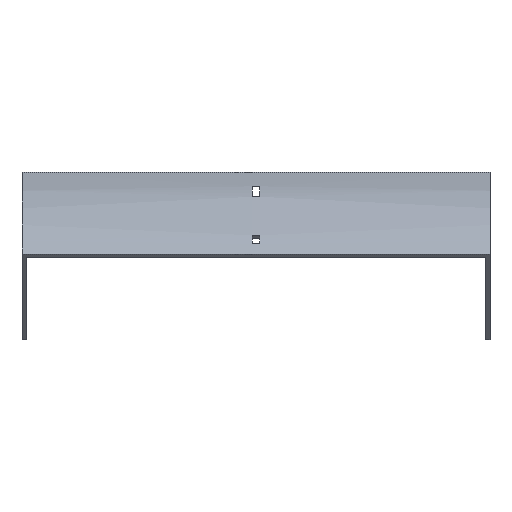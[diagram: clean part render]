
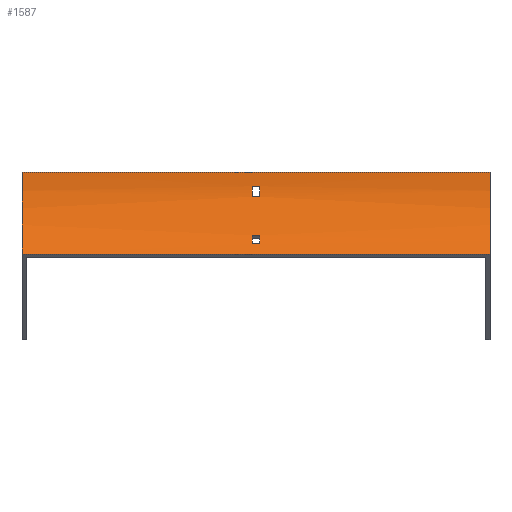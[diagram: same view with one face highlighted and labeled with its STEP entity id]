
A CAD part, front view. The second image highlights one B-rep face of the part: STEP entity #1587.
In plain terms, the highlighted cylindrical face has radius 100 mm (diameter 200 mm), a partial arc.
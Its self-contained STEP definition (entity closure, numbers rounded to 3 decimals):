
#10 = ORIENTED_EDGE ( 'NONE', *, *, #433, .T. ) ;
#19 = VERTEX_POINT ( 'NONE', #723 ) ;
#32 = DIRECTION ( 'NONE',  ( 0., 0., -1. ) ) ;
#38 = VERTEX_POINT ( 'NONE', #1108 ) ;
#39 = CIRCLE ( 'NONE', #531, 100. ) ;
#41 = AXIS2_PLACEMENT_3D ( 'NONE', #936, #1194, #1540 ) ;
#44 = CYLINDRICAL_SURFACE ( 'NONE', #925, 100. ) ;
#51 = DIRECTION ( 'NONE',  ( 1., 0., 0. ) ) ;
#79 = CARTESIAN_POINT ( 'NONE',  ( -202., -29.289, -70.711 ) ) ;
#85 = VERTEX_POINT ( 'NONE', #79 ) ;
#92 = DIRECTION ( 'NONE',  ( -1., 0., 0. ) ) ;
#96 = DIRECTION ( 'NONE',  ( -1., 0., 0. ) ) ;
#98 = ORIENTED_EDGE ( 'NONE', *, *, #997, .F. ) ;
#104 = DIRECTION ( 'NONE',  ( -1., 0., 0. ) ) ;
#107 = ORIENTED_EDGE ( 'NONE', *, *, #157, .F. ) ;
#112 = CARTESIAN_POINT ( 'NONE',  ( 202., -16.017, -54.285 ) ) ;
#139 = ORIENTED_EDGE ( 'NONE', *, *, #1120, .F. ) ;
#156 = DIRECTION ( 'NONE',  ( 1., 0., 0. ) ) ;
#157 = EDGE_CURVE ( 'NONE', #718, #85, #1644, .T. ) ;
#163 = ORIENTED_EDGE ( 'NONE', *, *, #820, .T. ) ;
#168 = EDGE_CURVE ( 'NONE', #802, #633, #765, .T. ) ;
#177 = VERTEX_POINT ( 'NONE', #619 ) ;
#189 = ORIENTED_EDGE ( 'NONE', *, *, #1183, .T. ) ;
#194 = FACE_OUTER_BOUND ( 'NONE', #1345, .T. ) ;
#210 = CARTESIAN_POINT ( 'NONE',  ( 3.25, -0.723, -12. ) ) ;
#240 = VECTOR ( 'NONE', #378, 1000. ) ;
#263 = CARTESIAN_POINT ( 'NONE',  ( -3.25, -0.723, -12. ) ) ;
#340 = CARTESIAN_POINT ( 'NONE',  ( -202., 0., 0. ) ) ;
#372 = CIRCLE ( 'NONE', #1323, 100. ) ;
#375 = VECTOR ( 'NONE', #104, 1000. ) ;
#378 = DIRECTION ( 'NONE',  ( -1., 0., 0. ) ) ;
#383 = VERTEX_POINT ( 'NONE', #1042 ) ;
#433 = EDGE_CURVE ( 'NONE', #478, #19, #789, .T. ) ;
#442 = CARTESIAN_POINT ( 'NONE',  ( 202., -100., 0. ) ) ;
#451 = DIRECTION ( 'NONE',  ( 0., 0., 1. ) ) ;
#459 = VECTOR ( 'NONE', #156, 1000. ) ;
#478 = VERTEX_POINT ( 'NONE', #210 ) ;
#483 = CARTESIAN_POINT ( 'NONE',  ( -3.25, -100., 0. ) ) ;
#484 = AXIS2_PLACEMENT_3D ( 'NONE', #1615, #992, #1113 ) ;
#502 = LINE ( 'NONE', #1542, #240 ) ;
#531 = AXIS2_PLACEMENT_3D ( 'NONE', #840, #600, #451 ) ;
#581 = CARTESIAN_POINT ( 'NONE',  ( 3.25, -21.315, -61.714 ) ) ;
#600 = DIRECTION ( 'NONE',  ( -1., 0., 0. ) ) ;
#619 = CARTESIAN_POINT ( 'NONE',  ( -3.25, -2.23, -21. ) ) ;
#633 = VERTEX_POINT ( 'NONE', #1267 ) ;
#645 = DIRECTION ( 'NONE',  ( 0., 0., 1. ) ) ;
#679 = CIRCLE ( 'NONE', #1624, 100. ) ;
#704 = DIRECTION ( 'NONE',  ( -1., 0., 0. ) ) ;
#718 = VERTEX_POINT ( 'NONE', #1516 ) ;
#723 = CARTESIAN_POINT ( 'NONE',  ( 3.25, -2.23, -21. ) ) ;
#765 = LINE ( 'NONE', #112, #1403 ) ;
#778 = EDGE_LOOP ( 'NONE', ( #1083, #814, #163, #10 ) ) ;
#780 = LINE ( 'NONE', #1162, #1453 ) ;
#788 = ORIENTED_EDGE ( 'NONE', *, *, #809, .T. ) ;
#789 = CIRCLE ( 'NONE', #41, 100. ) ;
#802 = VERTEX_POINT ( 'NONE', #1671 ) ;
#809 = EDGE_CURVE ( 'NONE', #38, #1202, #502, .T. ) ;
#814 = ORIENTED_EDGE ( 'NONE', *, *, #1692, .T. ) ;
#820 = EDGE_CURVE ( 'NONE', #871, #478, #1304, .T. ) ;
#824 = CARTESIAN_POINT ( 'NONE',  ( 202., -0.723, -12. ) ) ;
#840 = CARTESIAN_POINT ( 'NONE',  ( -202., -100., 0. ) ) ;
#871 = VERTEX_POINT ( 'NONE', #263 ) ;
#889 = VECTOR ( 'NONE', #1642, 1000. ) ;
#916 = EDGE_CURVE ( 'NONE', #633, #383, #1326, .T. ) ;
#925 = AXIS2_PLACEMENT_3D ( 'NONE', #442, #1123, #1632 ) ;
#936 = CARTESIAN_POINT ( 'NONE',  ( 3.25, -100., 0. ) ) ;
#970 = EDGE_LOOP ( 'NONE', ( #1150, #1213, #98, #1167 ) ) ;
#981 = CARTESIAN_POINT ( 'NONE',  ( 3.25, -100., 0. ) ) ;
#992 = DIRECTION ( 'NONE',  ( -1., 0., 0. ) ) ;
#997 = EDGE_CURVE ( 'NONE', #1535, #802, #679, .T. ) ;
#1005 = CARTESIAN_POINT ( 'NONE',  ( 202., -21.315, -61.714 ) ) ;
#1042 = CARTESIAN_POINT ( 'NONE',  ( -3.25, -21.315, -61.714 ) ) ;
#1083 = ORIENTED_EDGE ( 'NONE', *, *, #1235, .T. ) ;
#1108 = CARTESIAN_POINT ( 'NONE',  ( 202., 0., 0. ) ) ;
#1113 = DIRECTION ( 'NONE',  ( 0., 0., 1. ) ) ;
#1120 = EDGE_CURVE ( 'NONE', #38, #718, #1297, .T. ) ;
#1123 = DIRECTION ( 'NONE',  ( -1., 0., 0. ) ) ;
#1150 = ORIENTED_EDGE ( 'NONE', *, *, #916, .F. ) ;
#1162 = CARTESIAN_POINT ( 'NONE',  ( 202., -2.23, -21. ) ) ;
#1167 = ORIENTED_EDGE ( 'NONE', *, *, #1223, .F. ) ;
#1183 = EDGE_CURVE ( 'NONE', #1202, #85, #39, .T. ) ;
#1194 = DIRECTION ( 'NONE',  ( -1., 0., 0. ) ) ;
#1202 = VERTEX_POINT ( 'NONE', #340 ) ;
#1213 = ORIENTED_EDGE ( 'NONE', *, *, #168, .F. ) ;
#1223 = EDGE_CURVE ( 'NONE', #383, #1535, #1661, .T. ) ;
#1228 = FACE_BOUND ( 'NONE', #970, .T. ) ;
#1235 = EDGE_CURVE ( 'NONE', #19, #177, #780, .T. ) ;
#1267 = CARTESIAN_POINT ( 'NONE',  ( -3.25, -16.017, -54.285 ) ) ;
#1275 = CARTESIAN_POINT ( 'NONE',  ( 202., -29.289, -70.711 ) ) ;
#1287 = DIRECTION ( 'NONE',  ( 1., 0., 0. ) ) ;
#1297 = CIRCLE ( 'NONE', #484, 100. ) ;
#1304 = LINE ( 'NONE', #824, #459 ) ;
#1323 = AXIS2_PLACEMENT_3D ( 'NONE', #483, #1287, #645 ) ;
#1326 = CIRCLE ( 'NONE', #1515, 100. ) ;
#1345 = EDGE_LOOP ( 'NONE', ( #189, #107, #139, #788 ) ) ;
#1403 = VECTOR ( 'NONE', #96, 1000. ) ;
#1453 = VECTOR ( 'NONE', #92, 1000. ) ;
#1465 = CARTESIAN_POINT ( 'NONE',  ( -3.25, -100., 0. ) ) ;
#1486 = DIRECTION ( 'NONE',  ( 0., 0., 1. ) ) ;
#1515 = AXIS2_PLACEMENT_3D ( 'NONE', #1465, #704, #32 ) ;
#1516 = CARTESIAN_POINT ( 'NONE',  ( 202., -29.289, -70.711 ) ) ;
#1535 = VERTEX_POINT ( 'NONE', #581 ) ;
#1540 = DIRECTION ( 'NONE',  ( 0., 0., -1. ) ) ;
#1542 = CARTESIAN_POINT ( 'NONE',  ( 202., 0., 0. ) ) ;
#1587 = ADVANCED_FACE ( 'NONE', ( #194, #1610, #1228 ), #44, .F. ) ;
#1610 = FACE_BOUND ( 'NONE', #778, .T. ) ;
#1615 = CARTESIAN_POINT ( 'NONE',  ( 202., -100., 0. ) ) ;
#1624 = AXIS2_PLACEMENT_3D ( 'NONE', #981, #51, #1486 ) ;
#1632 = DIRECTION ( 'NONE',  ( 0., 0., 1. ) ) ;
#1642 = DIRECTION ( 'NONE',  ( 1., 0., 0. ) ) ;
#1644 = LINE ( 'NONE', #1275, #375 ) ;
#1661 = LINE ( 'NONE', #1005, #889 ) ;
#1671 = CARTESIAN_POINT ( 'NONE',  ( 3.25, -16.017, -54.285 ) ) ;
#1692 = EDGE_CURVE ( 'NONE', #177, #871, #372, .T. ) ;
